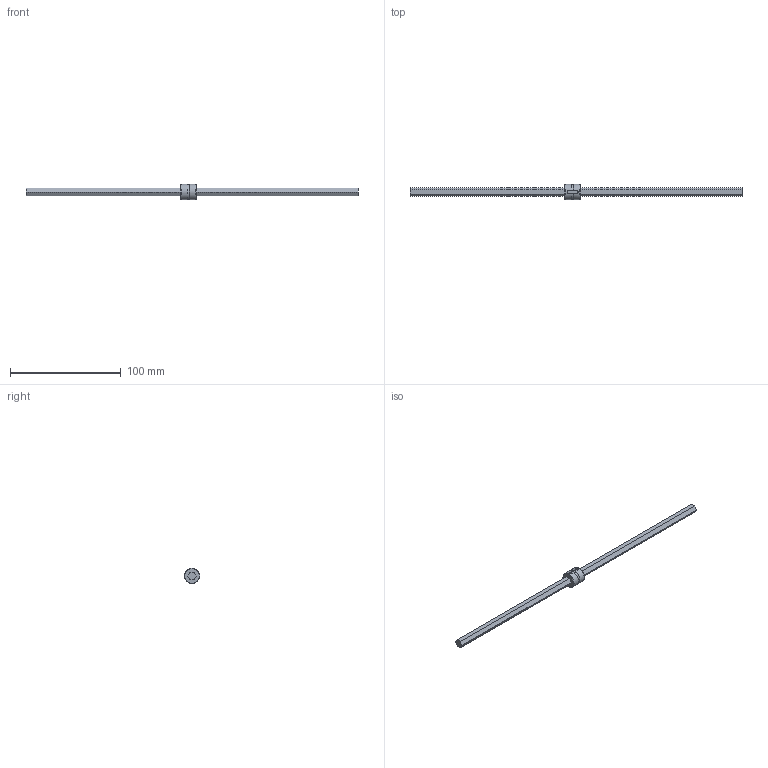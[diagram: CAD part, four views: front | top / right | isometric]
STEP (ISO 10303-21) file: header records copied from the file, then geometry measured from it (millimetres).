
FILE_DESCRIPTION((''),'2;1');
FILE_NAME('D:\製品 (図面)\カタログ用3D\ネジ関連\STEP形式\HTS\HTS7.stp','2010-06-01T16:49:12',('Tsuchiya'),(''),'Autodesk Inventor 10','Autodesk Inventor 10','');
FILE_SCHEMA(('AUTOMOTIVE_DESIGN { 1 0 10303 214 1 1 1 1 }'));
Length unit declared in the file: millimetre
Products named in the file (3): HTS7; HTS71; HTS72
Assembly tree (2 placements, depth 2):
  HTS7
    HTS71
    HTS72
Bounding box: 300 x 14 x 14 mm (x, y, z)
Volume: 14185.4 mm3; surface area: 8599.6 mm2
Topology: 2 solids, 2 shells, 36 faces, 89 edges, 59 vertices
Faces by surface type: plane 27, cylinder 6, torus 2, bspline 1
Full cylindrical faces by diameter (mm): 1 x1, 8.6 x1, 14 x2
Entity records: 1383 total; most frequent: CARTESIAN_POINT 484, DIRECTION 164, ORIENTED_EDGE 164, EDGE_CURVE 82, VECTOR 64, LINE 64, VERTEX_POINT 58, AXIS2_PLACEMENT_3D 50
